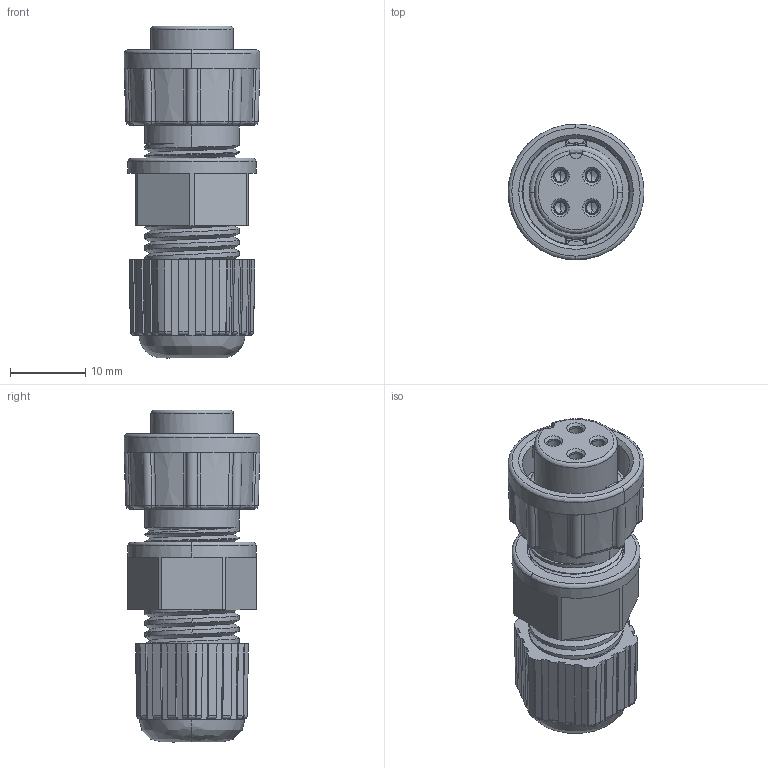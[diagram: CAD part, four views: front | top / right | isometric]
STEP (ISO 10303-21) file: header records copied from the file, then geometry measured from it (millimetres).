
FILE_DESCRIPTION (( 'STEP AP203' ), '1' );
FILE_NAME ('868-04A-203KIT.STEP', '2024-06-13T20:15:36', ( '' ), ( '' ), 'SwSTEP 2.0', 'SolidWorks 2020', '' );
FILE_SCHEMA (( 'CONFIG_CONTROL_DESIGN' ));
Length unit declared in the file: millimetre
Products named in the file (1): 868-04A-203KIT
Bounding box: 18 x 18 x 44 mm (x, y, z)
Volume: 5766.9 mm3; surface area: 7164.4 mm2
Topology: 1 solids, 1 shells, 580 faces, 1558 edges, 987 vertices
Faces by surface type: plane 219, cylinder 182, bspline 93, cone 86
Entity records: 36841 total; most frequent: CARTESIAN_POINT 23678, ORIENTED_EDGE 3084, DIRECTION 2274, EDGE_CURVE 1542, VERTEX_POINT 987, AXIS2_PLACEMENT_3D 884, EDGE_LOOP 609, B_SPLINE_CURVE_WITH_KNOTS 582
